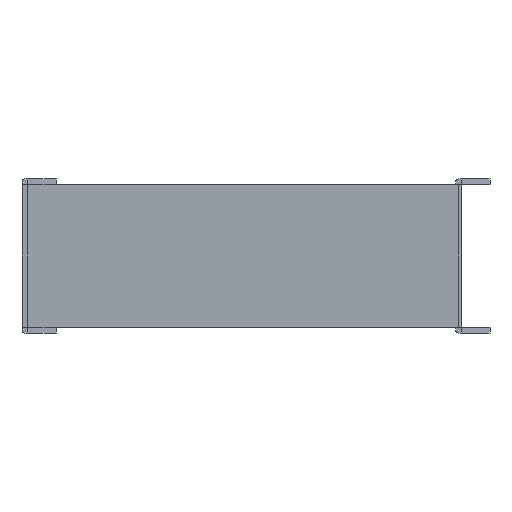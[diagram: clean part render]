
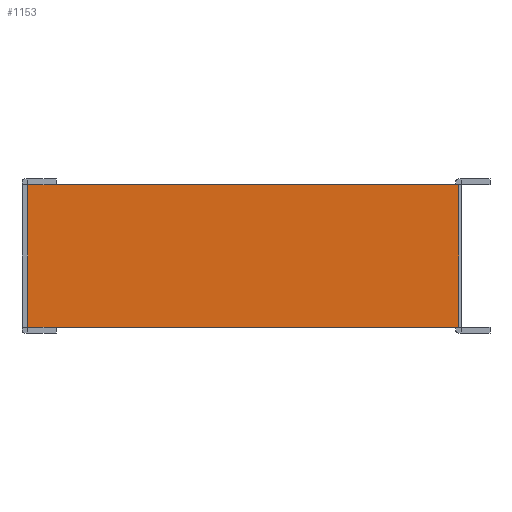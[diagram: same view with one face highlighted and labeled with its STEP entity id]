
A CAD part, left-side view. The second image highlights one B-rep face of the part: STEP entity #1153.
In plain terms, the highlighted planar face has unit normal (-1, 0, 0).
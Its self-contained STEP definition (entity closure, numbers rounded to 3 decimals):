
#53=FACE_OUTER_BOUND('',#121,.T.);
#121=EDGE_LOOP('',(#814,#815,#816,#817));
#199=LINE('',#1627,#349);
#209=LINE('',#1656,#359);
#223=LINE('',#1682,#373);
#232=LINE('',#1700,#382);
#349=VECTOR('',#1309,304.8);
#359=VECTOR('',#1329,304.8);
#373=VECTOR('',#1349,304.8);
#382=VECTOR('',#1360,304.8);
#499=VERTEX_POINT('',#1624);
#500=VERTEX_POINT('',#1626);
#513=VERTEX_POINT('',#1653);
#514=VERTEX_POINT('',#1655);
#607=EDGE_CURVE('',#499,#500,#199,.T.);
#621=EDGE_CURVE('',#513,#514,#209,.T.);
#635=EDGE_CURVE('',#514,#499,#223,.T.);
#644=EDGE_CURVE('',#513,#500,#232,.T.);
#814=ORIENTED_EDGE('',*,*,#635,.F.);
#815=ORIENTED_EDGE('',*,*,#621,.F.);
#816=ORIENTED_EDGE('',*,*,#644,.T.);
#817=ORIENTED_EDGE('',*,*,#607,.F.);
#1095=PLANE('',#1228);
#1153=ADVANCED_FACE('',(#53),#1095,.T.);
#1228=AXIS2_PLACEMENT_3D('',#1699,#1358,#1359);
#1309=DIRECTION('',(0.,-1.,0.));
#1329=DIRECTION('',(0.,1.,0.));
#1349=DIRECTION('',(0.,0.,1.));
#1358=DIRECTION('center_axis',(-1.,0.,0.));
#1359=DIRECTION('ref_axis',(0.,0.,-1.));
#1360=DIRECTION('',(0.,0.,1.));
#1624=CARTESIAN_POINT('',(-1.,75.,25.));
#1626=CARTESIAN_POINT('',(-1.,-76.,25.));
#1627=CARTESIAN_POINT('',(-1.,75.,25.));
#1653=CARTESIAN_POINT('',(-1.,-76.,-25.));
#1655=CARTESIAN_POINT('',(-1.,75.,-25.));
#1656=CARTESIAN_POINT('',(-1.,-76.,-25.));
#1682=CARTESIAN_POINT('',(-1.,75.,25.));
#1699=CARTESIAN_POINT('Origin',(-1.,75.,25.));
#1700=CARTESIAN_POINT('',(-1.,-76.,25.));
